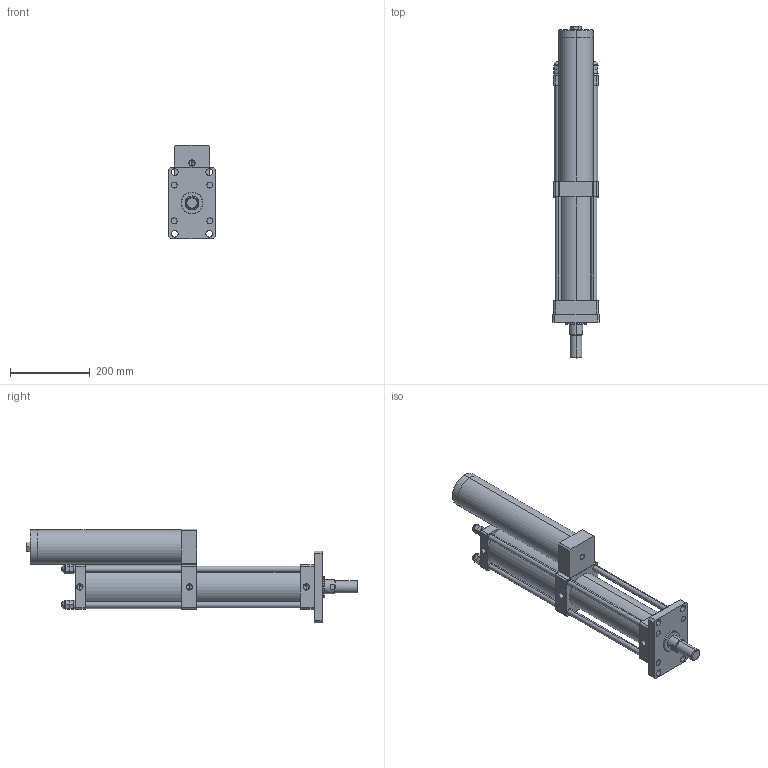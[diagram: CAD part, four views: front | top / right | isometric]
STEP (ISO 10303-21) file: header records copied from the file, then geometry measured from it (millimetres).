
FILE_DESCRIPTION (( 'STEP AP203' ), '1' );
FILE_NAME ('MPT-80-200-15-5T.STEP', '2016-03-11T01:44:18', ( 'WIN' ), ( '' ), 'SwSTEP 2.0', 'SolidWorks 2014', '' );
FILE_SCHEMA (( 'CONFIG_CONTROL_DESIGN' ));
Length unit declared in the file: millimetre
Products named in the file (1): MPT-80-200-15-5T
Bounding box: 118 x 835 x 235 mm (x, y, z)
Volume: 6680030.6 mm3; surface area: 775656.3 mm2
Topology: 20 solids, 20 shells, 391 faces, 954 edges, 554 vertices
Faces by surface type: plane 184, cylinder 84, torus 48, bspline 48, cone 27
Entity records: 12532 total; most frequent: CARTESIAN_POINT 3676, DIRECTION 1861, ORIENTED_EDGE 1776, EDGE_CURVE 888, AXIS2_PLACEMENT_3D 683, VERTEX_POINT 554, LINE 495, VECTOR 495
